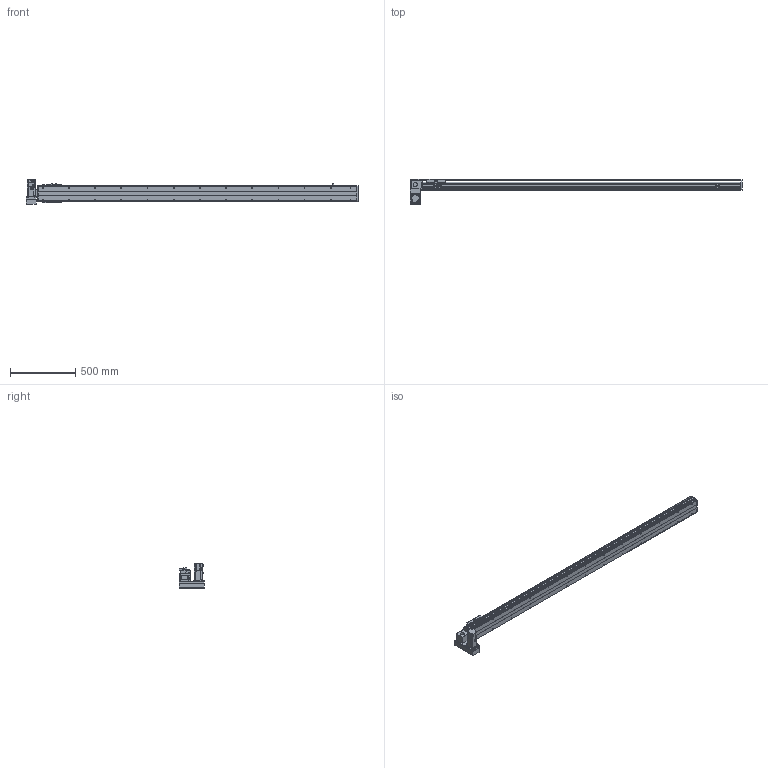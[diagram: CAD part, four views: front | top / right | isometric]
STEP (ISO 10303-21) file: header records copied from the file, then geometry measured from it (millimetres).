
FILE_DESCRIPTION( ( 'STEP AP214' ), '1' );
FILE_NAME( 'x:/temp/worker_6/temp/exporttempdir_3468_10_CDwH3/format_0/PBS120-P40-S2150-LD-T40-C1-N(0).stp', '2022-06-08T08:13:30', ( 'License CC BY-ND 4.0' ), ( 'CADENAS' ), ' ', 'PARTsolutions', ' ' );
FILE_SCHEMA( ( 'AUTOMOTIVE_DESIGN { 1 0 10303 214 1 1 1 1 }' ) );
Length unit declared in the file: millimetre
Products named in the file (7): PBS120-P40-S2150-LD-T40-C1-N(0); _PBS120-S2150()_body; _PBS120T-LD_motors; _T40-p1; _PBS120_sliser; _PBS120_plant; _PBS120_sensor
Assembly tree (8 placements, depth 2):
  PBS120-P40-S2150-LD-T40-C1-N(0)
    _PBS120-S2150()_body
    _PBS120T-LD_motors
    _T40-p1
    _PBS120_sliser
    _PBS120_plant
    _PBS120_sensor  x3
Bounding box: 2536 x 196 x 189.7 mm (x, y, z)
Volume: 9704490.4 mm3; surface area: 1989625.8 mm2
Topology: 8 solids, 8 shells, 858 faces, 2206 edges, 1417 vertices
Faces by surface type: plane 559, cylinder 239, cone 58, torus 2
Full cylindrical faces by diameter (mm): 2.459 x6, 3.242 x4, 4 x2, 4.134 x4, 4.5 x10, 4.917 x30, 5.5 x11, 6 x2, 6.6 x1, 7 x2, 8.5 x4, 9 x4, 12 x1, 14 x1, 30 x2, 40 x1, 50 x2
Entity records: 28164 total; most frequent: DIRECTION 3860, CARTESIAN_POINT 3767, ORIENTED_EDGE 3562, EDGE_CURVE 1781, AXIS2_PLACEMENT_3D 1316, LINE 1228, VECTOR 1228, VERTEX_POINT 1223
